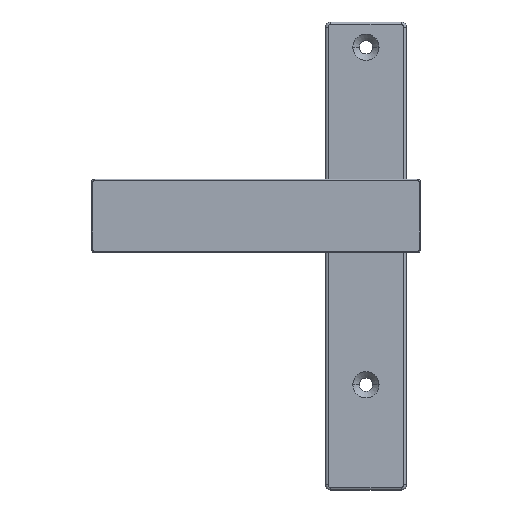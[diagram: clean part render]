
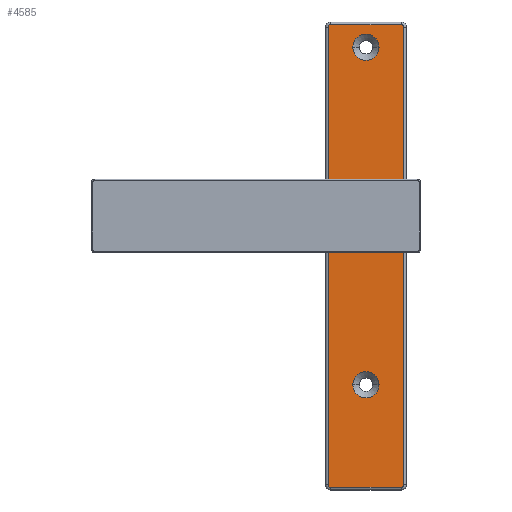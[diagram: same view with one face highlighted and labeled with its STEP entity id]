
A CAD part, top view. The second image highlights one B-rep face of the part: STEP entity #4585.
In plain terms, the highlighted planar face has unit normal (0, 0, 1).
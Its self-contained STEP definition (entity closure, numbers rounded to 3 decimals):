
#43 = DIRECTION ( 'NONE',  ( -1., 0., 0. ) ) ;
#53 = CIRCLE ( 'NONE', #9530, 1. ) ;
#62 = EDGE_CURVE ( 'NONE', #3568, #2108, #2586, .T. ) ;
#141 = FACE_BOUND ( 'NONE', #5660, .T. ) ;
#153 = VECTOR ( 'NONE', #9437, 1000. ) ;
#189 = VERTEX_POINT ( 'NONE', #1749 ) ;
#287 = ORIENTED_EDGE ( 'NONE', *, *, #3427, .T. ) ;
#359 = CARTESIAN_POINT ( 'NONE',  ( -94.172, -90.988, 43.907 ) ) ;
#391 = ORIENTED_EDGE ( 'NONE', *, *, #5333, .T. ) ;
#493 = EDGE_CURVE ( 'NONE', #6602, #7059, #7250, .T. ) ;
#707 = CARTESIAN_POINT ( 'NONE',  ( -94.172, -89.988, 43.907 ) ) ;
#757 = CARTESIAN_POINT ( 'NONE',  ( -73.672, 16.412, 43.907 ) ) ;
#763 = DIRECTION ( 'NONE',  ( 1., 0., 0. ) ) ;
#950 = ORIENTED_EDGE ( 'NONE', *, *, #2926, .F. ) ;
#1088 = DIRECTION ( 'NONE',  ( 1., 0., 0. ) ) ;
#1164 = CARTESIAN_POINT ( 'NONE',  ( -94.172, 91.162, 43.907 ) ) ;
#1221 = CIRCLE ( 'NONE', #2040, 5.2 ) ;
#1315 = CARTESIAN_POINT ( 'NONE',  ( -80.172, 16.412, 43.907 ) ) ;
#1492 = ORIENTED_EDGE ( 'NONE', *, *, #4094, .T. ) ;
#1541 = FACE_BOUND ( 'NONE', #4390, .T. ) ;
#1551 = CIRCLE ( 'NONE', #6343, 5.2 ) ;
#1562 = ORIENTED_EDGE ( 'NONE', *, *, #9804, .T. ) ;
#1604 = CARTESIAN_POINT ( 'NONE',  ( -86.672, 16.412, 43.907 ) ) ;
#1681 = CARTESIAN_POINT ( 'NONE',  ( -65.172, 91.162, 43.907 ) ) ;
#1749 = CARTESIAN_POINT ( 'NONE',  ( -74.972, 83.162, 43.907 ) ) ;
#1764 = ORIENTED_EDGE ( 'NONE', *, *, #1779, .T. ) ;
#1779 = EDGE_CURVE ( 'NONE', #4958, #2961, #53, .T. ) ;
#1956 = CARTESIAN_POINT ( 'NONE',  ( -80.172, 16.412, 43.907 ) ) ;
#1980 = DIRECTION ( 'NONE',  ( 0., 0., 1. ) ) ;
#2040 = AXIS2_PLACEMENT_3D ( 'NONE', #6667, #3725, #7486 ) ;
#2066 = AXIS2_PLACEMENT_3D ( 'NONE', #1315, #3923, #7497 ) ;
#2108 = VERTEX_POINT ( 'NONE', #3305 ) ;
#2299 = EDGE_LOOP ( 'NONE', ( #1562, #3050, #5278, #1764, #287, #1492, #5635, #391 ) ) ;
#2394 = ORIENTED_EDGE ( 'NONE', *, *, #493, .F. ) ;
#2586 = CIRCLE ( 'NONE', #7235, 5.2 ) ;
#2600 = EDGE_CURVE ( 'NONE', #8484, #3063, #3301, .T. ) ;
#2708 = CARTESIAN_POINT ( 'NONE',  ( -65.172, 91.162, 43.907 ) ) ;
#2808 = CIRCLE ( 'NONE', #8764, 1. ) ;
#2819 = DIRECTION ( 'NONE',  ( 1., 0., 0. ) ) ;
#2834 = VERTEX_POINT ( 'NONE', #7243 ) ;
#2838 = CARTESIAN_POINT ( 'NONE',  ( -74.972, -50.338, 43.907 ) ) ;
#2863 = CARTESIAN_POINT ( 'NONE',  ( -66.172, 92.162, 43.907 ) ) ;
#2926 = EDGE_CURVE ( 'NONE', #2108, #3568, #1221, .T. ) ;
#2961 = VERTEX_POINT ( 'NONE', #2863 ) ;
#2992 = AXIS2_PLACEMENT_3D ( 'NONE', #5784, #4230, #2819 ) ;
#3050 = ORIENTED_EDGE ( 'NONE', *, *, #2600, .T. ) ;
#3063 = VERTEX_POINT ( 'NONE', #4716 ) ;
#3207 = FACE_BOUND ( 'NONE', #3615, .T. ) ;
#3301 = CIRCLE ( 'NONE', #8924, 1. ) ;
#3305 = CARTESIAN_POINT ( 'NONE',  ( -85.372, -50.338, 43.907 ) ) ;
#3308 = DIRECTION ( 'NONE',  ( 0., 0., 1. ) ) ;
#3427 = EDGE_CURVE ( 'NONE', #2961, #7321, #7572, .T. ) ;
#3459 = VERTEX_POINT ( 'NONE', #4753 ) ;
#3568 = VERTEX_POINT ( 'NONE', #2838 ) ;
#3586 = CARTESIAN_POINT ( 'NONE',  ( -66.172, -89.988, 43.907 ) ) ;
#3615 = EDGE_LOOP ( 'NONE', ( #9622, #2394 ) ) ;
#3725 = DIRECTION ( 'NONE',  ( 0., 0., 1. ) ) ;
#3763 = ORIENTED_EDGE ( 'NONE', *, *, #62, .F. ) ;
#3923 = DIRECTION ( 'NONE',  ( 0., 0., 1. ) ) ;
#4094 = EDGE_CURVE ( 'NONE', #7321, #9335, #2808, .T. ) ;
#4208 = DIRECTION ( 'NONE',  ( 0., 1., 0. ) ) ;
#4230 = DIRECTION ( 'NONE',  ( 0., 0., 1. ) ) ;
#4234 = DIRECTION ( 'NONE',  ( 1., 0., 0. ) ) ;
#4305 = CARTESIAN_POINT ( 'NONE',  ( -80.172, 83.162, 43.907 ) ) ;
#4390 = EDGE_LOOP ( 'NONE', ( #3763, #950 ) ) ;
#4585 = ADVANCED_FACE ( 'NONE', ( #6919, #141, #1541, #3207 ), #4599, .T. ) ;
#4599 = PLANE ( 'NONE',  #7345 ) ;
#4649 = LINE ( 'NONE', #5550, #153 ) ;
#4716 = CARTESIAN_POINT ( 'NONE',  ( -65.172, -89.988, 43.907 ) ) ;
#4739 = ORIENTED_EDGE ( 'NONE', *, *, #6067, .F. ) ;
#4753 = CARTESIAN_POINT ( 'NONE',  ( -85.372, 83.162, 43.907 ) ) ;
#4958 = VERTEX_POINT ( 'NONE', #1681 ) ;
#4993 = DIRECTION ( 'NONE',  ( 0., 0., 1. ) ) ;
#5001 = CARTESIAN_POINT ( 'NONE',  ( -66.172, -90.988, 43.907 ) ) ;
#5073 = AXIS2_PLACEMENT_3D ( 'NONE', #707, #6083, #763 ) ;
#5105 = LINE ( 'NONE', #2708, #9748 ) ;
#5278 = ORIENTED_EDGE ( 'NONE', *, *, #6131, .T. ) ;
#5333 = EDGE_CURVE ( 'NONE', #2834, #8969, #8621, .T. ) ;
#5550 = CARTESIAN_POINT ( 'NONE',  ( -95.172, -89.988, 43.907 ) ) ;
#5635 = ORIENTED_EDGE ( 'NONE', *, *, #7485, .T. ) ;
#5660 = EDGE_LOOP ( 'NONE', ( #4739, #9392 ) ) ;
#5685 = VECTOR ( 'NONE', #43, 1000. ) ;
#5715 = DIRECTION ( 'NONE',  ( 1., 0., 0. ) ) ;
#5784 = CARTESIAN_POINT ( 'NONE',  ( -80.172, 83.162, 43.907 ) ) ;
#5860 = DIRECTION ( 'NONE',  ( 0., 0., 1. ) ) ;
#6067 = EDGE_CURVE ( 'NONE', #189, #3459, #1551, .T. ) ;
#6083 = DIRECTION ( 'NONE',  ( 0., 0., 1. ) ) ;
#6131 = EDGE_CURVE ( 'NONE', #3063, #4958, #5105, .T. ) ;
#6343 = AXIS2_PLACEMENT_3D ( 'NONE', #4305, #8032, #1088 ) ;
#6378 = CIRCLE ( 'NONE', #2066, 6.5 ) ;
#6503 = EDGE_CURVE ( 'NONE', #3459, #189, #9088, .T. ) ;
#6570 = CARTESIAN_POINT ( 'NONE',  ( -66.172, 91.162, 43.907 ) ) ;
#6602 = VERTEX_POINT ( 'NONE', #757 ) ;
#6612 = DIRECTION ( 'NONE',  ( 1., 0., 0. ) ) ;
#6667 = CARTESIAN_POINT ( 'NONE',  ( -80.172, -50.338, 43.907 ) ) ;
#6913 = CARTESIAN_POINT ( 'NONE',  ( -94.172, 92.162, 43.907 ) ) ;
#6919 = FACE_OUTER_BOUND ( 'NONE', #2299, .T. ) ;
#7059 = VERTEX_POINT ( 'NONE', #1604 ) ;
#7195 = CARTESIAN_POINT ( 'NONE',  ( -95.172, 91.162, 43.907 ) ) ;
#7235 = AXIS2_PLACEMENT_3D ( 'NONE', #9491, #4993, #7362 ) ;
#7243 = CARTESIAN_POINT ( 'NONE',  ( -95.172, -89.988, 43.907 ) ) ;
#7250 = CIRCLE ( 'NONE', #8544, 6.5 ) ;
#7272 = DIRECTION ( 'NONE',  ( 1., 0., 0. ) ) ;
#7321 = VERTEX_POINT ( 'NONE', #6913 ) ;
#7345 = AXIS2_PLACEMENT_3D ( 'NONE', #8587, #7682, #9240 ) ;
#7362 = DIRECTION ( 'NONE',  ( 1., 0., 0. ) ) ;
#7470 = CARTESIAN_POINT ( 'NONE',  ( -66.172, -90.988, 43.907 ) ) ;
#7485 = EDGE_CURVE ( 'NONE', #9335, #2834, #4649, .T. ) ;
#7486 = DIRECTION ( 'NONE',  ( 1., 0., 0. ) ) ;
#7497 = DIRECTION ( 'NONE',  ( 1., 0., 0. ) ) ;
#7572 = LINE ( 'NONE', #7618, #5685 ) ;
#7618 = CARTESIAN_POINT ( 'NONE',  ( -94.172, 92.162, 43.907 ) ) ;
#7682 = DIRECTION ( 'NONE',  ( 0., 0., 1. ) ) ;
#8032 = DIRECTION ( 'NONE',  ( 0., 0., 1. ) ) ;
#8077 = EDGE_CURVE ( 'NONE', #7059, #6602, #6378, .T. ) ;
#8484 = VERTEX_POINT ( 'NONE', #7470 ) ;
#8544 = AXIS2_PLACEMENT_3D ( 'NONE', #1956, #3308, #5715 ) ;
#8587 = CARTESIAN_POINT ( 'NONE',  ( -80.172, 16.412, 43.907 ) ) ;
#8621 = CIRCLE ( 'NONE', #5073, 1. ) ;
#8764 = AXIS2_PLACEMENT_3D ( 'NONE', #1164, #1980, #4234 ) ;
#8924 = AXIS2_PLACEMENT_3D ( 'NONE', #3586, #9825, #8962 ) ;
#8962 = DIRECTION ( 'NONE',  ( 1., 0., 0. ) ) ;
#8969 = VERTEX_POINT ( 'NONE', #359 ) ;
#9088 = CIRCLE ( 'NONE', #2992, 5.2 ) ;
#9240 = DIRECTION ( 'NONE',  ( 1., 0., 0. ) ) ;
#9335 = VERTEX_POINT ( 'NONE', #7195 ) ;
#9392 = ORIENTED_EDGE ( 'NONE', *, *, #6503, .F. ) ;
#9437 = DIRECTION ( 'NONE',  ( 0., -1., 0. ) ) ;
#9491 = CARTESIAN_POINT ( 'NONE',  ( -80.172, -50.338, 43.907 ) ) ;
#9530 = AXIS2_PLACEMENT_3D ( 'NONE', #6570, #5860, #6612 ) ;
#9619 = VECTOR ( 'NONE', #7272, 1000. ) ;
#9622 = ORIENTED_EDGE ( 'NONE', *, *, #8077, .F. ) ;
#9697 = LINE ( 'NONE', #5001, #9619 ) ;
#9748 = VECTOR ( 'NONE', #4208, 1000. ) ;
#9804 = EDGE_CURVE ( 'NONE', #8969, #8484, #9697, .T. ) ;
#9825 = DIRECTION ( 'NONE',  ( 0., 0., 1. ) ) ;
